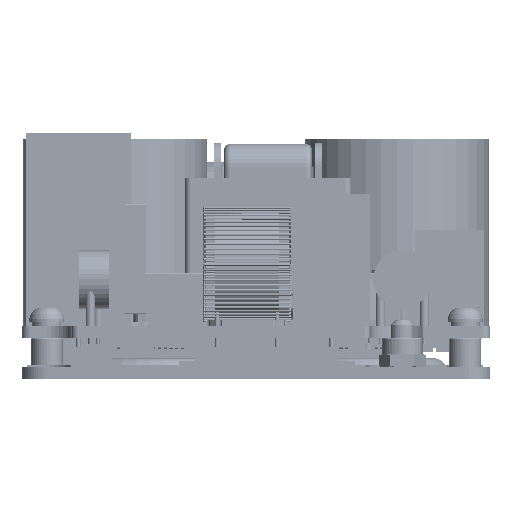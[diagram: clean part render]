
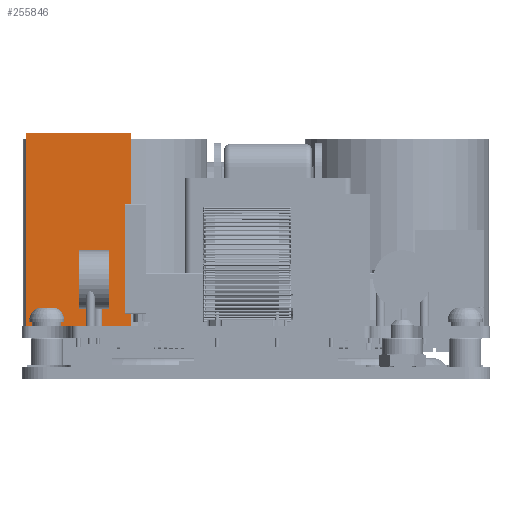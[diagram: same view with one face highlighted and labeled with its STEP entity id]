
A CAD part, left-side view. The second image highlights one B-rep face of the part: STEP entity #255846.
In plain terms, the highlighted planar face has unit normal (-1, 0, 0).
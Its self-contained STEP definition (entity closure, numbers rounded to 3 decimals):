
#73984=ORIENTED_EDGE('',*,*,#108750,.T.);
#73985=ORIENTED_EDGE('',*,*,#108741,.T.);
#73986=ORIENTED_EDGE('',*,*,#108749,.F.);
#73987=ORIENTED_EDGE('',*,*,#108744,.F.);
#108741=EDGE_CURVE('',#131847,#131846,#162320,.T.);
#108744=EDGE_CURVE('',#131849,#131850,#162323,.T.);
#108749=EDGE_CURVE('',#131850,#131846,#162328,.T.);
#108750=EDGE_CURVE('',#131849,#131847,#162329,.T.);
#131846=VERTEX_POINT('',#460782);
#131847=VERTEX_POINT('',#460784);
#131849=VERTEX_POINT('',#460789);
#131850=VERTEX_POINT('',#460791);
#162320=LINE('',#460783,#192850);
#162323=LINE('',#460790,#192853);
#162328=LINE('',#460799,#192858);
#162329=LINE('',#460801,#192859);
#192850=VECTOR('',#377953,1000.);
#192853=VECTOR('',#377958,1000.);
#192858=VECTOR('',#377967,1000.);
#192859=VECTOR('',#377970,1000.);
#209721=EDGE_LOOP('',(#73984,#73985,#73986,#73987));
#226541=FACE_BOUND('',#209721,.T.);
#240395=PLANE('',#312076);
#255846=ADVANCED_FACE('',(#226541),#240395,.T.);
#312076=AXIS2_PLACEMENT_3D('',#460800,#377968,#377969);
#377953=DIRECTION('',(0.,1.,0.));
#377958=DIRECTION('',(0.,1.,0.));
#377967=DIRECTION('',(0.,0.,1.));
#377968=DIRECTION('',(-1.,0.,0.));
#377969=DIRECTION('',(0.,1.,0.));
#377970=DIRECTION('',(0.,0.,1.));
#460782=CARTESIAN_POINT('',(24.134,79.353,33.));
#460783=CARTESIAN_POINT('',(24.134,61.353,33.));
#460784=CARTESIAN_POINT('',(24.134,61.353,33.));
#460789=CARTESIAN_POINT('',(24.134,61.353,0.));
#460790=CARTESIAN_POINT('',(24.134,61.353,0.));
#460791=CARTESIAN_POINT('',(24.134,79.353,0.));
#460799=CARTESIAN_POINT('',(24.134,79.353,0.));
#460800=CARTESIAN_POINT('',(24.134,61.353,0.));
#460801=CARTESIAN_POINT('',(24.134,61.353,0.));
